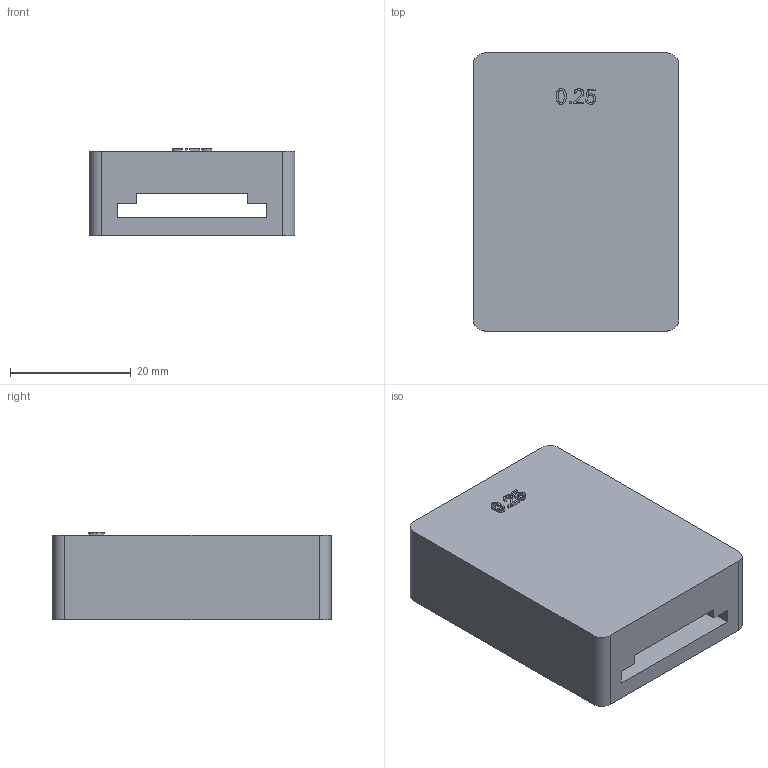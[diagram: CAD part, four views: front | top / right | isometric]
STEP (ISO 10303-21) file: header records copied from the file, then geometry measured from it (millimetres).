
FILE_DESCRIPTION(('Open CASCADE Model'),'2;1');
FILE_NAME('Open CASCADE Shape Model','1970-01-01T00:00:00',('Author'),( 'Open CASCADE'),'Open CASCADE STEP processor 7.8','Open CASCADE 7.8' ,'Unknown');
FILE_SCHEMA(('AUTOMOTIVE_DESIGN { 1 0 10303 214 1 1 1 1 }'));
Length unit declared in the file: millimetre
Products named in the file (2): Open CASCADE STEP translator 7.8 4; S25R sliding receiver
Assembly tree (1 placements, depth 2):
  Open CASCADE STEP translator 7.8 4
    S25R sliding receiver
Bounding box: 34 x 46 x 14.48 mm (x, y, z)
Volume: 17484.4 mm3; surface area: 7802.8 mm2
Topology: 1 solids, 1 shells, 95 faces, 270 edges, 180 vertices
Faces by surface type: extrusion 53, plane 36, cylinder 6
Full cylindrical faces by diameter (mm): 6.8 x2
Entity records: 7612 total; most frequent: CARTESIAN_POINT 2790, DIRECTION 624, ORIENTED_EDGE 540, PCURVE 540, DEFINITIONAL_REPRESENTATION 540, VECTOR 492, LINE 439, B_SPLINE_CURVE_WITH_KNOTS 392
